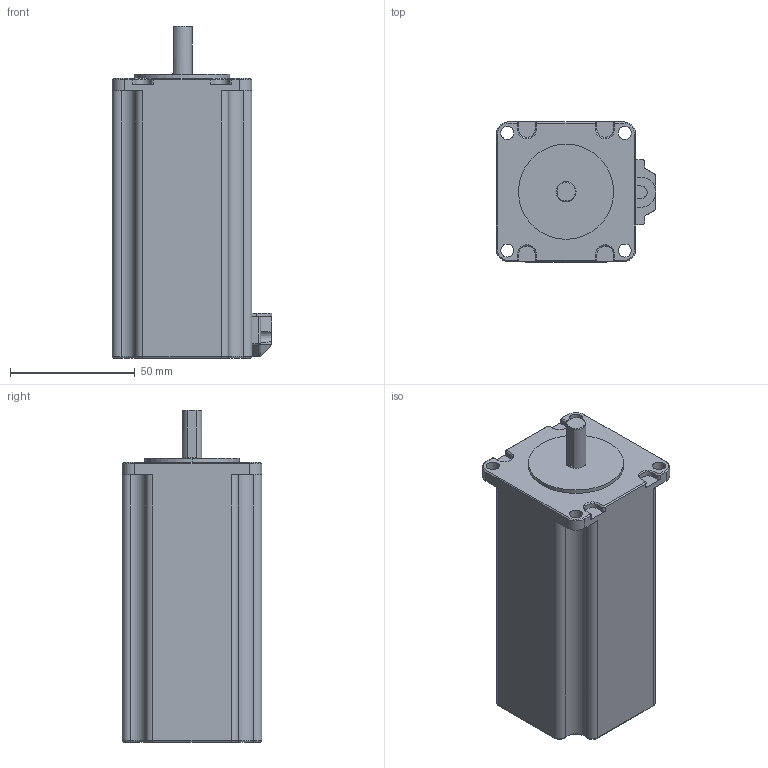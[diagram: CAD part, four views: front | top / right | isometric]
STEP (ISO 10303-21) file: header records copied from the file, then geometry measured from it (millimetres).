
FILE_DESCRIPTION((''),'2;1');
FILE_NAME('ABCD0E94C2B2YBIU_1_1','2022-03-23T10:03:07',('qingl'),(''),'CREO PARAMETRIC BY PTC INC, 2019224','CREO PARAMETRIC BY PTC INC, 2019224','');
FILE_SCHEMA(('CONFIG_CONTROL_DESIGN'));
Length unit declared in the file: millimetre
Products named in the file (1): ABCD0E94C2B2YBIU_1_1
Bounding box: 64 x 56 x 133 mm (x, y, z)
Volume: 317149.4 mm3; surface area: 31142.2 mm2
Topology: 1 solids, 1 shells, 287 faces, 793 edges, 515 vertices
Faces by surface type: cylinder 166, plane 78, cone 21, torus 12, bspline 8, sphere 2
Entity records: 12603 total; most frequent: CARTESIAN_POINT 5507, ORIENTED_EDGE 1582, DIRECTION 1343, EDGE_CURVE 791, VERTEX_POINT 515, AXIS2_PLACEMENT_3D 497, VECTOR 349, LINE 349
